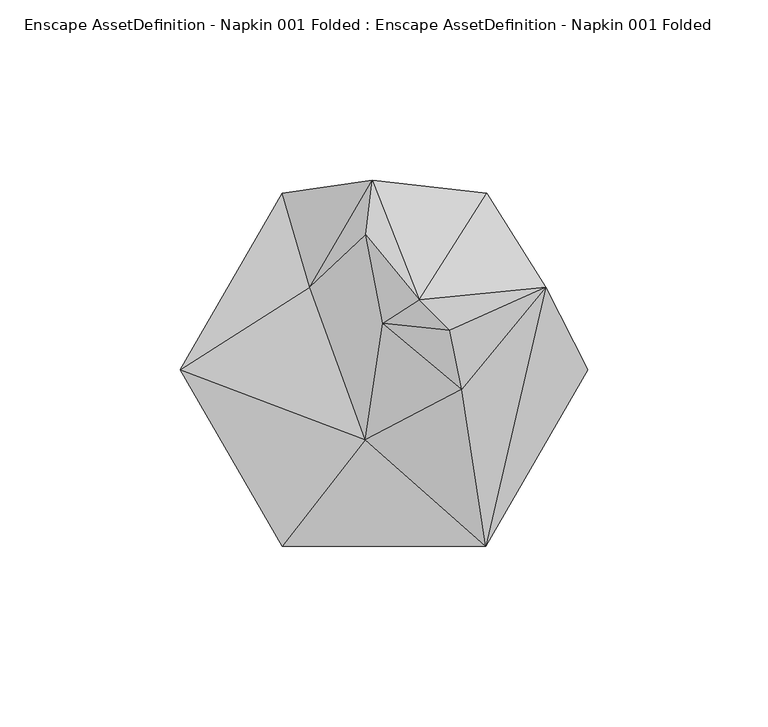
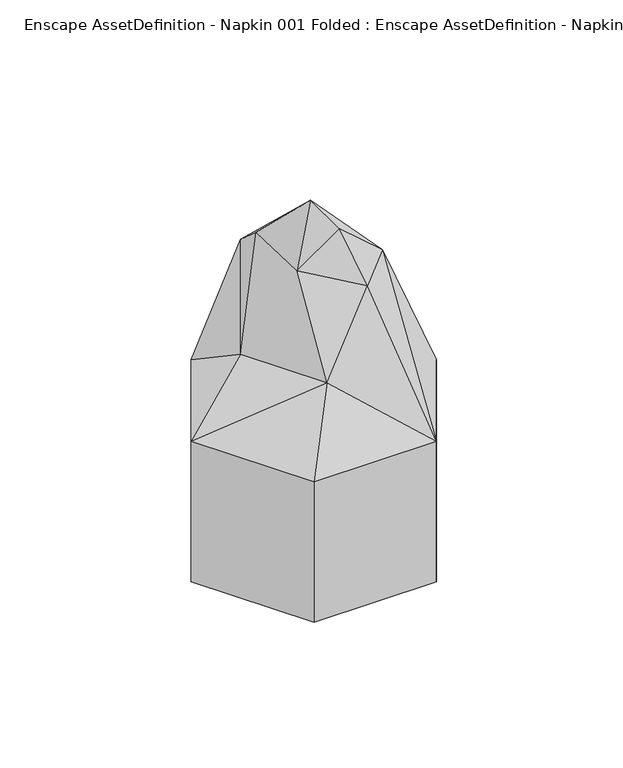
"""IFC4 building model written with IfcOpenShell, lengths in millimetres: geographic element geometry, Enscape AssetDefinition - Napkin 001 Folded : Enscape AssetDefinition - Napkin 001 Folded."""

from ifc_helpers import new_model, si_unit, origin, place, context, project, spatial, triangles, source, transform, mapped, element, save


def enscape_assetdefinition_napkin_001_folded_enscape_1bf4be49(model_context):
    return source(origin(), model_context, "Body", "Tessellation", [
        triangles([(28.2712486, -48.7779547, -0.0476395), (28.2712486, -48.7779547, 68.3444793), (-28.2866614, -48.7779547, -0.0476395), (-28.2866614, 49.183594, -0.0476395), (28.2712486, 49.183594, -0.0476395), (56.5502047, 0.2024679, -0.0476395), (-56.5656107, 0.2024679, -0.0476395), (-56.5656107, 0.2024679, 68.3444793), (-28.2866614, -48.7779547, 68.3444793), (-5.1499712, -19.2057295, 90.6958176), (-28.2866614, 49.183594, 68.3444793), (28.2712486, 49.183594, 68.3444793), (56.5502047, 0.2024679, 68.3444793), (-3.27942, 52.833621, 116.1962687), (9.8326552, 19.6940332, 150.7258108), (-20.6384182, 23.1100697, 84.21896), (18.2473339, 11.1840773, 139.0240178), (-0.3285725, 13.1737269, 123.8970614), (-5.0308725, 37.6296117, 129.4393557), (28.4639103, 49.183594, 112.1336079), (21.5232525, -5.2389448, 120.0186462), (44.831584, 23.1100697, 112.1336079)], [[21, 22, 17], [2, 22, 21], [2, 13, 22], [13, 20, 22], [22, 20, 15], [17, 22, 15], [21, 17, 18], [19, 18, 15], [17, 15, 18], [2, 21, 10], [10, 21, 18], [16, 10, 18], [16, 18, 19], [14, 19, 15], [20, 14, 15], [14, 16, 19], [13, 12, 20], [12, 14, 20], [12, 11, 14], [11, 16, 14], [5, 11, 12], [11, 8, 16], [8, 10, 16], [8, 9, 10], [9, 2, 10], [7, 9, 8], [4, 7, 8], [5, 4, 11], [4, 8, 11], [6, 5, 12], [4, 5, 6], [6, 12, 13], [7, 3, 9], [3, 4, 6], [3, 7, 4], [3, 2, 9], [1, 6, 13], [3, 1, 2], [1, 13, 2], [1, 3, 6]]),
    ])


if __name__ == "__main__":
    model = new_model("IFC4")
    model_context = context("Model", 3, world=origin())
    ifc_project = project(units=[si_unit("LENGTHUNIT", "METRE", prefix="MILLI")], contexts=[model_context])
    site = spatial("IfcSite", under=ifc_project)
    building = spatial("IfcBuilding", under=site)
    placement = place(None, origin())
    enscape_assetdefinition_napkin_001_folded_enscape_shape = enscape_assetdefinition_napkin_001_folded_enscape_1bf4be49(model_context)
    element("IfcGeographicElement", 1, ObjectType="Enscape AssetDefinition - Napkin 001 Folded : Enscape AssetDefinition - Napkin 001 Folded", at=placement, inside=building, context=model_context, shape_type="MappedRepresentation", body=[
        mapped(enscape_assetdefinition_napkin_001_folded_enscape_shape, transform((0.0, 0.0, 0.0), x_axis=(1.0, 0.0, 0.0), y_axis=(0.0, 1.0, 0.0), z_axis=(0.0, 0.0, 1.0))),
    ])
    save(model, "model.ifc")
